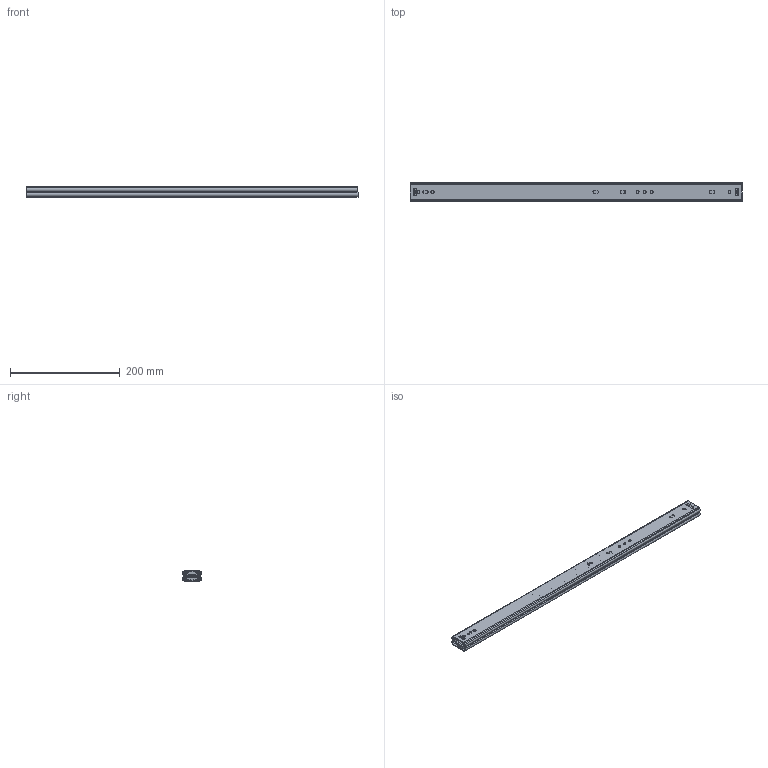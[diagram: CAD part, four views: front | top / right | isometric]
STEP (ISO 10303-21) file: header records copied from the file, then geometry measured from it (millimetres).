
FILE_DESCRIPTION(/* description */ (''),/* implementation_level */ '2;1');
FILE_NAME(/* name */ '\\NAS\db20\L6-600\DR_L6-600.stp',/* time_stamp */ '2017-10-11T10:56:41+09:00',/* author */ ('user'),/* organization */ (''),/* preprocessor_version */ 'ST-DEVELOPER v15.6',/* originating_system */ 'Autodesk Inventor 2015',/* authorisation */ '');
FILE_SCHEMA (('AUTOMOTIVE_DESIGN { 1 0 10303 214 3 1 1 }'));
Length unit declared in the file: millimetre
Products named in the file (5): DR_L6-550-B; DR_L6-600-P1; DR_L6-600-P2; DR_L6-600-B; DR_L6-600
Bounding box: 606 x 35.23 x 19.14 mm (x, y, z)
Volume: 147612.9 mm3; surface area: 223565.9 mm2
Topology: 8 solids, 8 shells, 606 faces, 1506 edges, 1044 vertices
Faces by surface type: plane 300, cylinder 178, sphere 128
Full cylindrical faces by diameter (mm): 5 x10
Entity records: 14457 total; most frequent: DIRECTION 2532, CARTESIAN_POINT 2462, ORIENTED_EDGE 2308, EDGE_CURVE 1154, AXIS2_PLACEMENT_3D 884, VERTEX_POINT 814, LINE 764, VECTOR 764
